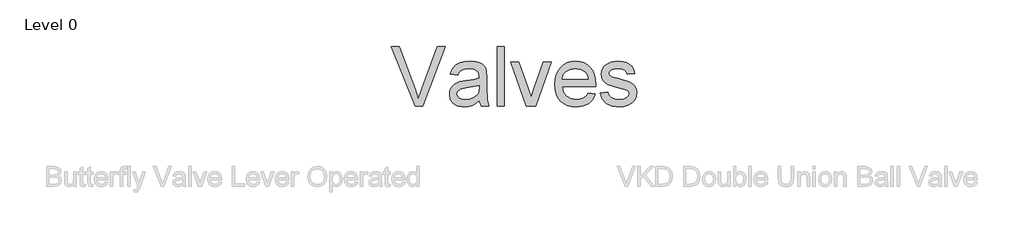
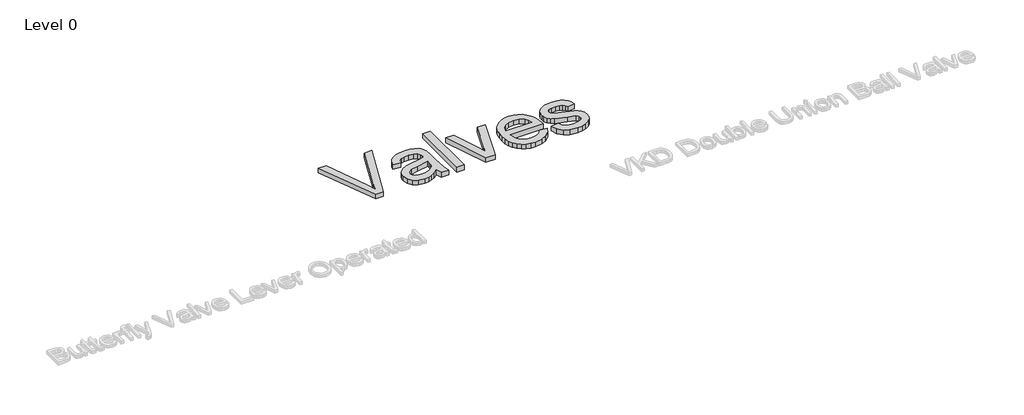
# One storey, part 12 of 12: 1 proxy.
"""IFC4 building model written with IfcOpenShell, lengths in millimetres."""

from ifc_helpers import new_model, si_unit, origin, origin_with_axes, place, context, project, spatial, polyline, outline, extrude, element, save

model = new_model("IFC4")

# Units and contexts
model_context = context("Model", 3, world=origin())
ifc_project = project(units=[si_unit("LENGTHUNIT", "METRE", prefix="MILLI")], contexts=[model_context])

# Site, building, storey
site = spatial("IfcSite", under=ifc_project)
building = spatial("IfcBuilding", under=site)
storey = spatial("IfcBuildingStorey", under=building, Name="Level 0", Elevation=0.0)

# Proxy
placement = place(None, origin())
element("IfcBuildingElementProxy", 1, Name="300mm Arial", ObjectType="300mm Arial", at=placement, inside=storey, context=model_context, shape_type="SweptSolid", body=[
    extrude(outline(polyline([(-6333.7842535, 9345.7253457), (-6451.3323304, 9641.1099611), (-6411.8130996, 9641.1099611), (-6333.135215, 9428.2974611), (-6317.197715, 9380.3407304), (-6301.4765612, 9428.2974611), (-6222.5823304, 9641.1099611), (-6183.0630996, 9641.1099611), (-6295.635215, 9345.7253457), (-6333.7842535, 9345.7253457)])), origin_with_axes(), (0.0, 0.0, 1.0), 25.0),
    extrude(outline(polyline([(-6014.8900227, 9373.4176534), (-6032.5312487, 9358.2914515), (-6050.6953112, 9348.393615), (-6069.7968737, 9342.9308746), (-6090.2505996, 9341.1099611), (-6121.1069698, 9345.4909707), (-6143.8683881, 9358.6339996), (-6157.9038448, 9378.5919323), (-6162.5823304, 9403.4176534), (-6160.8155035, 9418.7241438), (-6155.5150227, 9432.6243842), (-6147.338941, 9444.5234227), (-6136.9453112, 9453.8263073), (-6111.0919458, 9465.9416919), (-6079.1448304, 9471.4945765), (-6041.3924266, 9477.3359227), (-6015.1063689, 9484.1868842), (-6014.8900227, 9492.408038), (-6017.43209, 9508.8864034), (-6025.0582919, 9519.6676534), (-6042.1135804, 9527.6724611), (-6065.8755996, 9530.3407304), (-6087.8707919, 9528.564889), (-6103.2313689, 9523.237365), (-6113.7061285, 9513.3846005), (-6121.0438689, 9498.033038), (-6157.9669458, 9502.6484227), (-6151.557691, 9522.8407304), (-6141.9933881, 9538.706115), (-6128.3816093, 9550.8395284), (-6109.8299266, 9559.8359227), (-6087.1406237, 9565.4068361), (-6061.1159843, 9567.2638073), (-6036.1550468, 9565.6231823), (-6016.3683881, 9560.7013073), (-6001.4495179, 9553.3004659), (-5991.0919458, 9544.2229419), (-5984.2229554, 9532.9999852), (-5979.7698304, 9519.1628457), (-5977.9669458, 9486.8551534), (-5977.9669458, 9440.9176534), (-5976.0919458, 9376.7710188), (-5968.7361766, 9345.7253457), (-6005.6592535, 9345.7253457), (-6014.8900227, 9373.4176534)]), holes=[polyline([(-6014.8900227, 9447.2638073), (-6074.4573304, 9435.9416919), (-6106.2241573, 9429.956115), (-6120.6111766, 9420.220538), (-6125.6592535, 9406.0138073), (-6122.9098544, 9395.03424), (-6114.6616573, 9386.0378457), (-6101.0949506, 9380.03424), (-6082.3900227, 9378.033038), (-6062.5582919, 9380.2415717), (-6045.0342535, 9386.8671727), (-6030.8275227, 9396.6297929), (-6020.947715, 9408.2493842), (-6016.5667054, 9420.220538), (-6015.1063689, 9436.8070765), (-6014.8900227, 9447.2638073)])]), origin_with_axes(), (0.0, 0.0, 1.0), 25.0),
    extrude(outline(polyline([(-5927.197715, 9345.7253457), (-5927.197715, 9641.1099611), (-5890.2746381, 9641.1099611), (-5890.2746381, 9345.7253457), (-5927.197715, 9345.7253457)])), origin_with_axes(), (0.0, 0.0, 1.0), 25.0),
    extrude(outline(polyline([(-5781.6688689, 9345.7253457), (-5857.9669458, 9562.6484227), (-5818.8804073, 9562.6484227), (-5772.6544458, 9432.6964996), (-5758.7361766, 9388.9945765), (-5745.1063689, 9430.2445765), (-5698.5919458, 9562.6484227), (-5659.5054073, 9562.6484227), (-5734.8659843, 9345.7253457), (-5781.6688689, 9345.7253457)])), origin_with_axes(), (0.0, 0.0, 1.0), 25.0),
    extrude(outline(polyline([(-5475.322715, 9410.3407304), (-5439.1207919, 9405.7253457), (-5452.1646621, 9378.4477015), (-5472.978965, 9358.0570765), (-5501.0949506, 9345.34674), (-5536.0438689, 9341.1099611), (-5558.9540251, 9342.9376354), (-5579.3671862, 9348.4206582), (-5597.283352, 9357.5590296), (-5612.7025227, 9370.3527496), (-5625.1018617, 9386.4457484), (-5633.9585323, 9405.4819563), (-5639.2725347, 9427.4613734), (-5641.0438689, 9452.3839996), (-5639.2545059, 9478.1517279), (-5633.8864169, 9500.8635669), (-5624.939602, 9520.5195164), (-5612.4140612, 9537.1195765), (-5597.0354554, 9550.3076775), (-5579.5294458, 9559.7277496), (-5559.8960323, 9565.3797929), (-5538.135215, 9567.2638073), (-5517.0752691, 9565.3843001), (-5498.0300468, 9559.7457784), (-5480.999548, 9550.3482424), (-5465.9837727, 9537.1916919), (-5453.7264109, 9520.6276895), (-5444.9711525, 9501.0077977), (-5439.7179975, 9478.3320164), (-5437.9669458, 9452.6003457), (-5438.1832919, 9442.6484227), (-5604.1207919, 9442.6484227), (-5597.729566, 9415.0102015), (-5582.8828112, 9394.6916919), (-5561.4555275, 9382.1977015), (-5535.322715, 9378.033038), (-5515.6712727, 9379.9621246), (-5499.1207919, 9385.7493842), (-5485.6712727, 9395.7553938), (-5475.322715, 9410.3407304)]), holes=[polyline([(-5604.1207919, 9479.5714996), (-5474.8900227, 9479.5714996), (-5479.8840131, 9499.0787111), (-5489.6736766, 9513.033038), (-5511.2001189, 9526.0138073), (-5538.2794458, 9530.3407304), (-5563.1682679, 9526.8882063), (-5583.7481958, 9516.5306342), (-5598.0540852, 9500.3858025), (-5604.1207919, 9479.5714996)])]), origin_with_axes(), (0.0, 0.0, 1.0), 25.0),
    extrude(outline(polyline([(-5414.8900227, 9410.3407304), (-5377.9669458, 9414.956115), (-5372.1436285, 9399.1628457), (-5360.8755996, 9387.5522688), (-5344.0907439, 9380.4128457), (-5321.7169458, 9378.033038), (-5299.6135804, 9380.2145284), (-5284.072715, 9386.7589996), (-5274.8780035, 9396.2421727), (-5271.8130996, 9407.2397688), (-5274.8960323, 9416.6508265), (-5284.1448304, 9423.8263073), (-5322.1496381, 9434.3551534), (-5377.7505996, 9452.4200573), (-5391.8221141, 9461.4975813), (-5402.0174266, 9473.5138073), (-5408.2103352, 9487.7025092), (-5410.2746381, 9503.2974611), (-5408.6159843, 9517.6033505), (-5403.6400227, 9530.8094804), (-5395.7974746, 9542.393014), (-5385.5390612, 9551.831115), (-5362.0655035, 9562.7565957), (-5330.2986766, 9567.2638073), (-5306.2662246, 9565.4519082), (-5285.3707919, 9560.0162111), (-5268.5679073, 9551.4885669), (-5256.8130996, 9540.4008265), (-5249.0246381, 9525.9326775), (-5244.1207919, 9507.2638073), (-5281.0438689, 9502.6484227), (-5285.7043256, 9514.268014), (-5294.9260804, 9523.0210188), (-5308.7992775, 9528.5108025), (-5327.4140612, 9530.3407304), (-5348.6159843, 9528.5919323), (-5362.7505996, 9523.345538), (-5370.7013208, 9515.7734227), (-5373.3515612, 9507.0474611), (-5368.9525227, 9496.3022688), (-5355.1784843, 9488.1532304), (-5323.3755996, 9480.2926534), (-5269.1808881, 9462.9128457), (-5254.8659843, 9454.6015477), (-5244.0126189, 9443.2253457), (-5237.1706718, 9428.7481823), (-5234.8900227, 9411.1339996), (-5237.5673064, 9392.924865), (-5245.5991573, 9375.7974611), (-5258.6790852, 9361.0949371), (-5276.5005996, 9350.1604419), (-5298.0270419, 9343.3725813), (-5322.2217535, 9341.1099611), (-5359.4513208, 9345.4729419), (-5386.6207919, 9358.5618842), (-5404.7578112, 9380.2325573), (-5414.8900227, 9410.3407304)])), origin_with_axes(), (0.0, 0.0, 1.0), 25.0),
])

save(model, "model.ifc")
